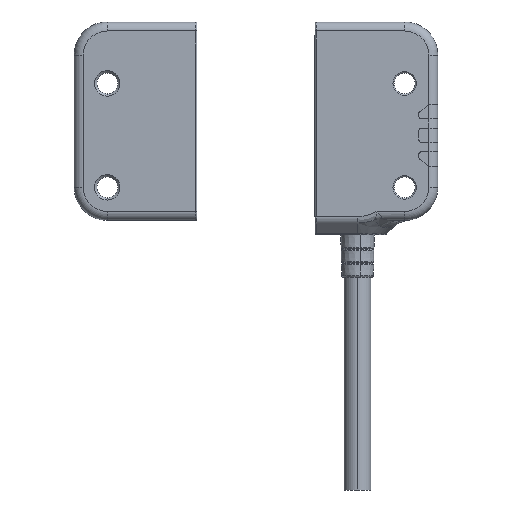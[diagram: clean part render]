
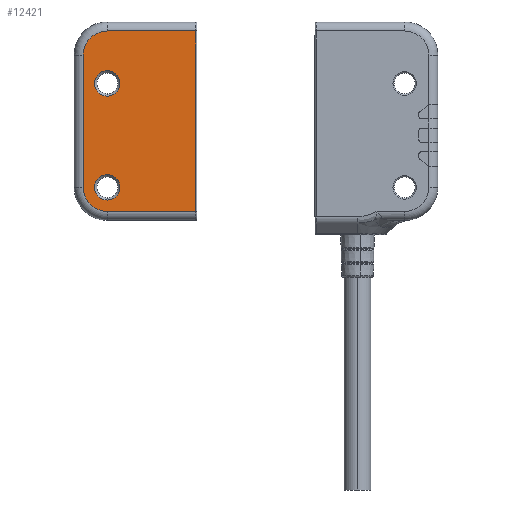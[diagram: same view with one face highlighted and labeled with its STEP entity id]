
A CAD part, front view. The second image highlights one B-rep face of the part: STEP entity #12421.
In plain terms, the highlighted planar face has unit normal (0, -1, 0) as drawn and (0, 1, 0) by its records, which use the part's own axes.
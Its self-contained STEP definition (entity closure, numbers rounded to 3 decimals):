
#11 = LINE ( 'NONE', #4353, #26418 ) ;
#408 = CARTESIAN_POINT ( 'NONE',  ( 11.1, 18., -14. ) ) ;
#497 = DIRECTION ( 'NONE',  ( 0., 0., 1. ) ) ;
#656 = EDGE_CURVE ( 'NONE', #3649, #23996, #20204, .T. ) ;
#1295 = CARTESIAN_POINT ( 'NONE',  ( 6., 18., 5.3 ) ) ;
#1455 = CARTESIAN_POINT ( 'NONE',  ( 6., 18., 10.7 ) ) ;
#1669 = AXIS2_PLACEMENT_3D ( 'NONE', #4435, #6478, #12740 ) ;
#1869 = VECTOR ( 'NONE', #16610, 1000. ) ;
#2454 = EDGE_LOOP ( 'NONE', ( #22124, #11438 ) ) ;
#2685 = ORIENTED_EDGE ( 'NONE', *, *, #18233, .T. ) ;
#2838 = CIRCLE ( 'NONE', #17982, 5.1 ) ;
#3178 = PLANE ( 'NONE',  #5877 ) ;
#3237 = CIRCLE ( 'NONE', #13262, 2.7 ) ;
#3414 = EDGE_CURVE ( 'NONE', #4813, #14258, #4727, .T. ) ;
#3608 = ORIENTED_EDGE ( 'NONE', *, *, #23919, .T. ) ;
#3649 = VERTEX_POINT ( 'NONE', #1295 ) ;
#3807 = DIRECTION ( 'NONE',  ( -1., 0., 0. ) ) ;
#4353 = CARTESIAN_POINT ( 'NONE',  ( -12.7, 18., 19.1 ) ) ;
#4435 = CARTESIAN_POINT ( 'NONE',  ( 6., 18., -14. ) ) ;
#4727 = CIRCLE ( 'NONE', #1669, 2.7 ) ;
#4813 = VERTEX_POINT ( 'NONE', #21390 ) ;
#4815 = ORIENTED_EDGE ( 'NONE', *, *, #21698, .T. ) ;
#5067 = VECTOR ( 'NONE', #3807, 1000. ) ;
#5223 = EDGE_CURVE ( 'NONE', #19633, #22742, #14532, .T. ) ;
#5877 = AXIS2_PLACEMENT_3D ( 'NONE', #24072, #17950, #25850 ) ;
#5911 = CARTESIAN_POINT ( 'NONE',  ( -12.7, 18., -19.1 ) ) ;
#5917 = EDGE_CURVE ( 'NONE', #15529, #24464, #19375, .T. ) ;
#6249 = CARTESIAN_POINT ( 'NONE',  ( 6., 18., 14. ) ) ;
#6478 = DIRECTION ( 'NONE',  ( 0., -1., 0. ) ) ;
#7099 = CIRCLE ( 'NONE', #22259, 2.7 ) ;
#7112 = FACE_BOUND ( 'NONE', #13044, .T. ) ;
#8275 = CARTESIAN_POINT ( 'NONE',  ( -12.7, 18., 19.1 ) ) ;
#8744 = CARTESIAN_POINT ( 'NONE',  ( 6., 18., 19.1 ) ) ;
#8788 = DIRECTION ( 'NONE',  ( 0., 0., 1. ) ) ;
#8820 = DIRECTION ( 'NONE',  ( 0., 0., 1. ) ) ;
#8969 = CARTESIAN_POINT ( 'NONE',  ( 6., 18., 8. ) ) ;
#9209 = AXIS2_PLACEMENT_3D ( 'NONE', #6249, #24703, #20241 ) ;
#11020 = ORIENTED_EDGE ( 'NONE', *, *, #5917, .T. ) ;
#11438 = ORIENTED_EDGE ( 'NONE', *, *, #11486, .T. ) ;
#11486 = EDGE_CURVE ( 'NONE', #14258, #4813, #7099, .T. ) ;
#11522 = EDGE_CURVE ( 'NONE', #24464, #19633, #2838, .T. ) ;
#12004 = AXIS2_PLACEMENT_3D ( 'NONE', #14905, #21517, #26101 ) ;
#12421 = ADVANCED_FACE ( 'NONE', ( #7112, #20980, #15414 ), #3178, .T. ) ;
#12550 = CARTESIAN_POINT ( 'NONE',  ( 6., 18., -16.7 ) ) ;
#12619 = DIRECTION ( 'NONE',  ( 0., -1., 0. ) ) ;
#12655 = DIRECTION ( 'NONE',  ( 0., 0., 1. ) ) ;
#12740 = DIRECTION ( 'NONE',  ( 0., 0., 1. ) ) ;
#13044 = EDGE_LOOP ( 'NONE', ( #3608, #16285 ) ) ;
#13054 = VERTEX_POINT ( 'NONE', #8275 ) ;
#13262 = AXIS2_PLACEMENT_3D ( 'NONE', #8969, #19648, #8820 ) ;
#14258 = VERTEX_POINT ( 'NONE', #12550 ) ;
#14532 = LINE ( 'NONE', #20227, #5067 ) ;
#14839 = CIRCLE ( 'NONE', #9209, 5.1 ) ;
#14905 = CARTESIAN_POINT ( 'NONE',  ( 6., 18., 8. ) ) ;
#15414 = FACE_OUTER_BOUND ( 'NONE', #18514, .T. ) ;
#15529 = VERTEX_POINT ( 'NONE', #16191 ) ;
#16191 = CARTESIAN_POINT ( 'NONE',  ( 11.1, 18., 14. ) ) ;
#16285 = ORIENTED_EDGE ( 'NONE', *, *, #656, .T. ) ;
#16395 = ORIENTED_EDGE ( 'NONE', *, *, #19230, .T. ) ;
#16610 = DIRECTION ( 'NONE',  ( 1., 0., 0. ) ) ;
#16747 = LINE ( 'NONE', #8744, #1869 ) ;
#17406 = ORIENTED_EDGE ( 'NONE', *, *, #11522, .T. ) ;
#17950 = DIRECTION ( 'NONE',  ( 0., 1., 0. ) ) ;
#17982 = AXIS2_PLACEMENT_3D ( 'NONE', #20872, #25063, #497 ) ;
#18233 = EDGE_CURVE ( 'NONE', #22742, #13054, #11, .T. ) ;
#18505 = VECTOR ( 'NONE', #25731, 1000. ) ;
#18514 = EDGE_LOOP ( 'NONE', ( #24528, #2685, #4815, #16395, #11020, #17406 ) ) ;
#19230 = EDGE_CURVE ( 'NONE', #20171, #15529, #14839, .T. ) ;
#19375 = LINE ( 'NONE', #26005, #18505 ) ;
#19633 = VERTEX_POINT ( 'NONE', #25777 ) ;
#19648 = DIRECTION ( 'NONE',  ( 0., -1., 0. ) ) ;
#19874 = CARTESIAN_POINT ( 'NONE',  ( 6., 18., 19.1 ) ) ;
#20171 = VERTEX_POINT ( 'NONE', #19874 ) ;
#20204 = CIRCLE ( 'NONE', #12004, 2.7 ) ;
#20227 = CARTESIAN_POINT ( 'NONE',  ( -13., 18., -19.1 ) ) ;
#20241 = DIRECTION ( 'NONE',  ( 0., 0., 1. ) ) ;
#20745 = CARTESIAN_POINT ( 'NONE',  ( 6., 18., -14. ) ) ;
#20872 = CARTESIAN_POINT ( 'NONE',  ( 6., 18., -14. ) ) ;
#20980 = FACE_BOUND ( 'NONE', #2454, .T. ) ;
#21390 = CARTESIAN_POINT ( 'NONE',  ( 6., 18., -11.3 ) ) ;
#21517 = DIRECTION ( 'NONE',  ( 0., -1., 0. ) ) ;
#21698 = EDGE_CURVE ( 'NONE', #13054, #20171, #16747, .T. ) ;
#22124 = ORIENTED_EDGE ( 'NONE', *, *, #3414, .T. ) ;
#22259 = AXIS2_PLACEMENT_3D ( 'NONE', #20745, #12619, #8788 ) ;
#22742 = VERTEX_POINT ( 'NONE', #5911 ) ;
#23919 = EDGE_CURVE ( 'NONE', #23996, #3649, #3237, .T. ) ;
#23996 = VERTEX_POINT ( 'NONE', #1455 ) ;
#24072 = CARTESIAN_POINT ( 'NONE',  ( 6., 18., 14. ) ) ;
#24464 = VERTEX_POINT ( 'NONE', #408 ) ;
#24528 = ORIENTED_EDGE ( 'NONE', *, *, #5223, .T. ) ;
#24703 = DIRECTION ( 'NONE',  ( 0., 1., 0. ) ) ;
#25063 = DIRECTION ( 'NONE',  ( 0., 1., 0. ) ) ;
#25731 = DIRECTION ( 'NONE',  ( 0., 0., -1. ) ) ;
#25777 = CARTESIAN_POINT ( 'NONE',  ( 6., 18., -19.1 ) ) ;
#25850 = DIRECTION ( 'NONE',  ( 0., 0., 1. ) ) ;
#26005 = CARTESIAN_POINT ( 'NONE',  ( 11.1, 18., -14. ) ) ;
#26101 = DIRECTION ( 'NONE',  ( 0., 0., 1. ) ) ;
#26418 = VECTOR ( 'NONE', #12655, 1000. ) ;
